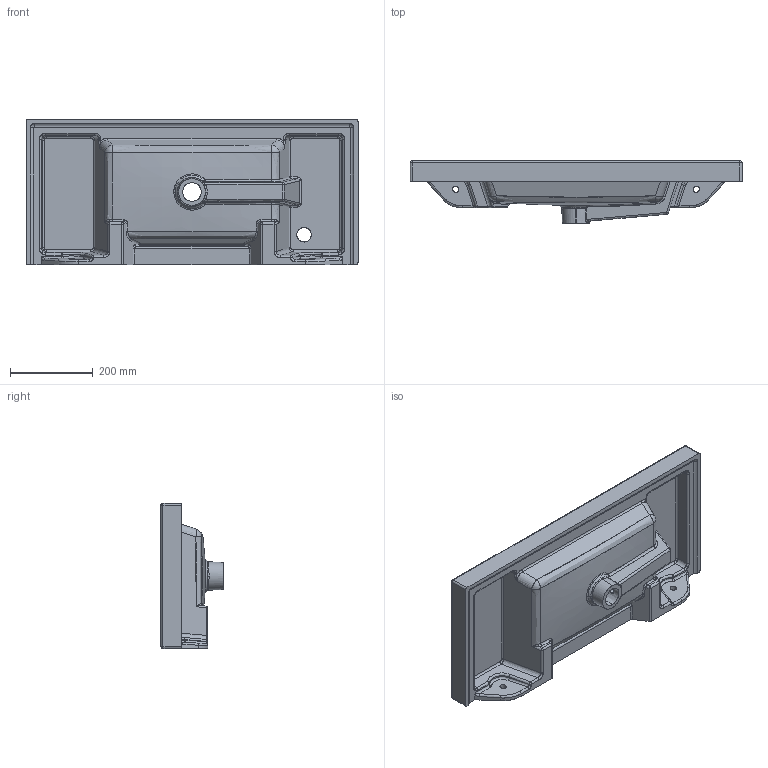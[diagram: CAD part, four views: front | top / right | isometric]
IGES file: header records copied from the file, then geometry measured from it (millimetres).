
Start section: SolidWorks IGES file using analytic representation for surfaces
Global section: file name: K:\lavabi tecla 3D IGS\f. SERIE 35 (4)\SERIE35 35X80 3501011.IGS; native system: SolidWorks 2013; preprocessor: SolidWorks 2013; author: UTENTE 1; date: 140521.170720; units: millimetre
Bounding box: 800 x 150 x 350 mm (x, y, z)
Surface area: 1008623.9 mm2 (no closed solid volume)
Topology: 0 solids, 0 shells, 318 faces, 3634 edges, 3626 vertices
Faces by surface type: bspline 175, revolution 143
